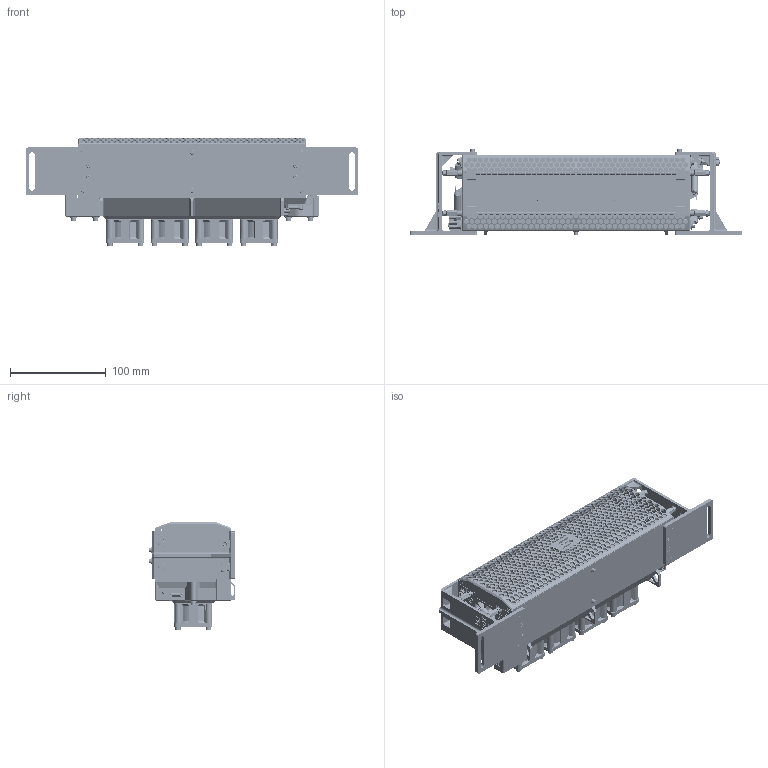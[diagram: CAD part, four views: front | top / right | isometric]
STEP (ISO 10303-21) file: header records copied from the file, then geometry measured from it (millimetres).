
FILE_DESCRIPTION (( 'STEP AP203' ), '1' );
FILE_NAME ('Protium 450_G_60_Assembly_External Download.STEP', '2024-01-30T07:56:07', ( '' ), ( '' ), 'SwSTEP 2.0', 'SolidWorks 2021', '' );
FILE_SCHEMA (( 'CONFIG_CONTROL_DESIGN' ));
Length unit declared in the file: millimetre
Products named in the file (42): FLY_G_60_Solid Stack; Long Nut 12mm; Pressure Sensor Cover_2; socket head cap screw_am_B18.3.1M - 3 x 0.5 x 35 Hex SHCS -- 18NHX; FLY v6_Manifold EP Universal_Nov 2022; socket head cap screw_am_B18.3.1M - 2.5 x 0.45 x 6 Hex SHCS -- 6NHX; Straight Connector (Silicone)_M5; Header & Wire Housing Vertical 4P_530470410; socket head cap screw_am_B18.3.1M - 2 x 0.4 x 6 Hex SHCS -- 6NHX; flat washer narrow_am_B18.22M - Plain washer, 2.5 mm, narrow; FLY_G_60_Mask Cover_Sep 2023; 279mm Rod; Pressure Sensor_MPX5100DP; 3D valve; FLY_G_60_Fan Casing_Sep 2023; L-Shape Connector (Silicone)_M5; socket head cap screw_am_B18.3.1M - 2.5 x 0.45 x 12 Hex SHCS -- 12NHX; PEM_Mounting Bracket_Left_Oct 2023; Standoff Nut_DB; FLY v6_Manifold Module_A_Nov 2022_Solid; Gas blocker_M5; Pressure Sensor Cover_1; M3 Disc washer; FLY - Current collector Alu 0.5mm; Header & Wire Housing Vertical 6P_530470610; socket head cap screw_am_B18.3.1M - 3 x 0.5 x 16 Hex SHCS -- 16NHX; HFV_LHDX0536400B^LFMX0532750B 14v spike hold; FLY_G_60_U Casing_Sep 2023; Delta 40x40mm 12VDC; Common_6 Pin Molex_530470610_Housing; Common_4 Pin Molex_530470410_Housing; D Sub Contact (Female)_09691817423; Protium 450_G_60_Assembly_External Download; Lee Valve Mounting_Single_Metal; M3 Lock Nut; Street Tee Adjustable Position Adapter_M5TM-M5; D Sub 17W2 (Female)_09693015172; FLY v6_Manifold Module_B_Nov 2022_Solid; PEM_Mounting Bracket_Right_Oct 2023; flat washer narrow_am_B18.22M - Plain washer, 3 mm, narrow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
Assembly tree (201 placements, depth 2):
  Protium 450_G_60_Assembly_External Download
    FLY v6_Manifold EP Universal_Nov 2022  x2
    Pressure Sensor Cover_1
    Pressure Sensor Cover_2
    Common_6 Pin Molex_530470610_Housing  x2
    Common_4 Pin Molex_530470410_Housing  x2
    3D valve  x2
    Lee Valve Mounting_Single_Metal  x4
    FLY_G_60_Mask Cover_Sep 2023
    FLY_G_60_Fan Casing_Sep 2023
    FLY_G_60_U Casing_Sep 2023
    PEM_Mounting Bracket_Left_Oct 2023
    PEM_Mounting Bracket_Right_Oct 2023
    FLY - Current collector Alu 0.5mm  x2
    Header & Wire Housing Vertical 4P_530470410  x2
    Header & Wire Housing Vertical 6P_530470610  x2
    Delta 40x40mm 12VDC  x4
    HFV_LHDX0536400B^LFMX0532750B 14v spike hold  x2
    Pressure Sensor_MPX5100DP  x2
    D Sub 17W2 (Female)_09693015172
    D Sub Contact (Female)_09691817423  x2
    Gas blocker_M5  x5
    L-Shape Connector (Silicone)_M5
    Straight Connector (Silicone)_M5  x3
    Street Tee Adjustable Position Adapter_M5TM-M5
    FLY v6_Manifold Module_A_Nov 2022_Solid  x2
    FLY v6_Manifold Module_B_Nov 2022_Solid  x2
    M3 Lock Nut  x8
    Long Nut 12mm  x8
    Standoff Nut_DB  x2
    socket head cap screw_am_B18.3.1M - 2.5 x 0.45 x 12 Hex SHCS -- 12NHX  x8
    socket head cap screw_am_B18.3.1M - 3 x 0.5 x 35 Hex SHCS -- 18NHX  x16
    socket head cap screw_am_B18.3.1M - 2.5 x 0.45 x 10 Hex SHCS -- 10NHX  x20
    socket head cap screw_am_B18.3.1M - 2 x 0.4 x 6 Hex SHCS -- 6NHX  x8
    279mm Rod  x4
    socket head cap screw_am_B18.3.1M - 3 x 0.5 x 16 Hex SHCS -- 16NHX  x4
    socket head cap screw_am_B18.3.1M - 2.5 x 0.45 x 6 Hex SHCS -- 6NHX  x8
    M3 Disc washer  x32
    flat washer narrow_am_B18.22M - Plain washer, 2.5 mm, narrow  x12
    flat washer narrow_am_B18.22M - Plain washer, 3 mm, narrow  x4
    M3 washer  x16
    FLY_G_60_Solid Stack
Bounding box: 346.7 x 90.1 x 112.45 mm (x, y, z)
Volume: 930947.8 mm3; surface area: 453291.6 mm2
Topology: 211 solids, 216 shells, 16631 faces, 45984 edges, 29922 vertices
Faces by surface type: plane 8784, cylinder 5438, cone 1554, bspline 692, torus 135, sphere 28
Full cylindrical faces by diameter (mm): 1.2 x15, 1.5 x23, 1.6 x1, 1.981 x6, 2 x18, 2.1 x15, 2.4 x1, 2.5 x64, 2.6 x22, 2.7 x8, 2.769 x12, 2.8 x10, 3 x54, 3.1 x14, 3.12 x2, 3.14 x12, 3.2 x44, 3.4 x16, 3.5 x27, 3.6 x20, 3.68 x4, 3.8 x11, 4 x15, 4.04 x4, 4.067 x1, 4.1 x2, 4.15 x20, 4.3 x4, 4.5 x36, 4.72 x5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
Entity records: 455011 total; most frequent: CARTESIAN_POINT 125441, ORIENTED_EDGE 70774, DIRECTION 61386, EDGE_CURVE 35391, VERTEX_POINT 23783, LINE 21364, VECTOR 21364, AXIS2_PLACEMENT_3D 20011
